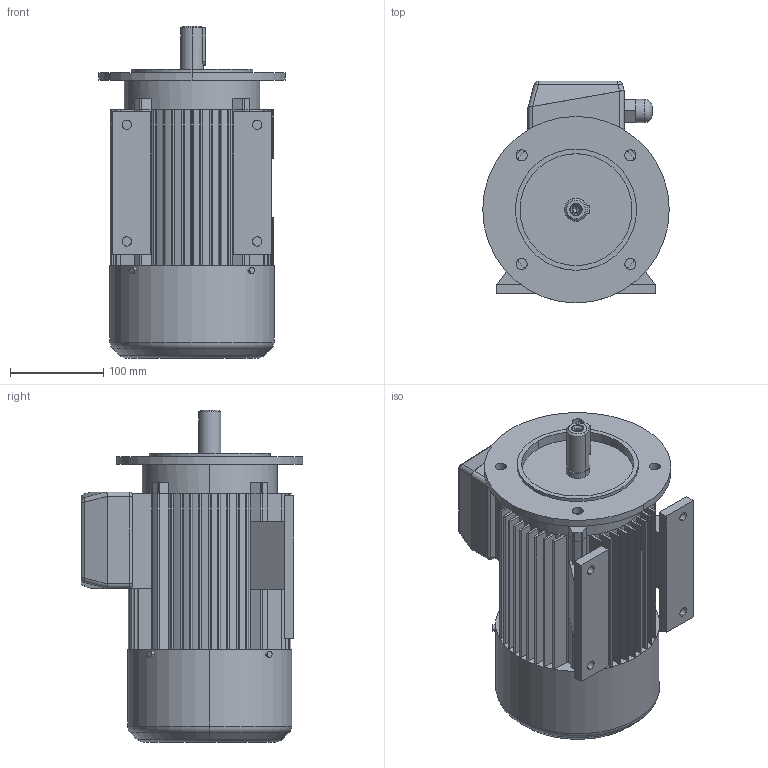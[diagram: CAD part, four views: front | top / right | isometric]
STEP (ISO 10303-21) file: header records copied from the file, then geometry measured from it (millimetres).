
FILE_DESCRIPTION (( 'STEP AP203' ), '1' );
FILE_NAME ('2SIEL90L4,6.STEP', '2012-10-26T11:56:16', ( 'INDUKTA' ), ( 'CANTONI MOTOR' ), 'SwSTEP 2.0', 'SolidWorks 2003064', '' );
FILE_SCHEMA (( 'CONFIG_CONTROL_DESIGN' ));
Length unit declared in the file: millimetre
Products named in the file (1): 2SIEL90L4,6
Bounding box: 200 x 238 x 356 mm (x, y, z)
Volume: 7127263.1 mm3; surface area: 571198 mm2
Topology: 13 solids, 13 shells, 399 faces, 1053 edges, 679 vertices
Faces by surface type: plane 188, cylinder 185, cone 12, torus 10, sphere 4
Entity records: 12469 total; most frequent: DIRECTION 2245, CARTESIAN_POINT 2187, ORIENTED_EDGE 2094, EDGE_CURVE 1047, AXIS2_PLACEMENT_3D 809, VERTEX_POINT 679, LINE 627, VECTOR 627
